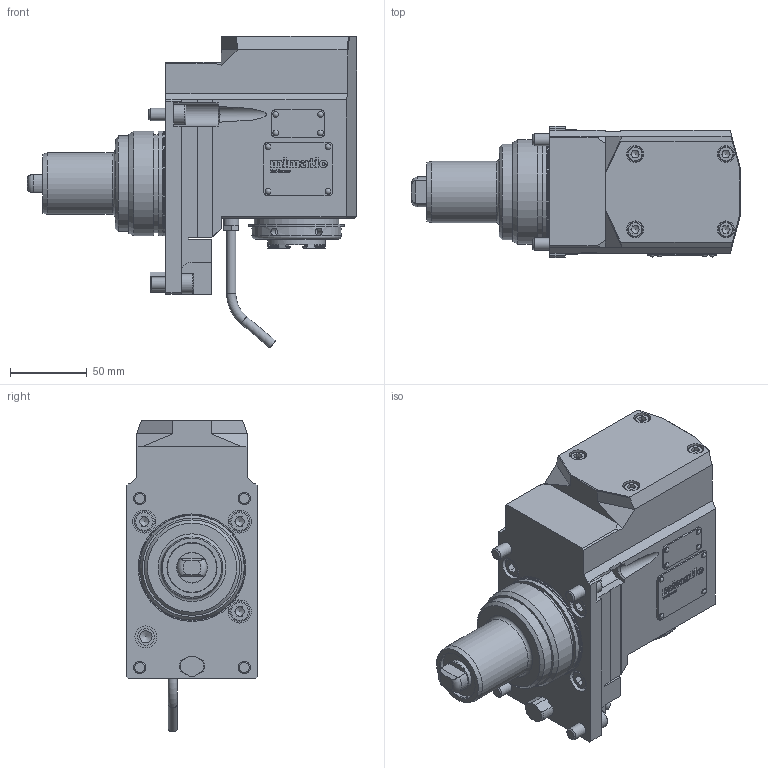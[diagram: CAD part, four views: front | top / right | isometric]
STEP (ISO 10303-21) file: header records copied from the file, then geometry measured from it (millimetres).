
FILE_DESCRIPTION(/* description */ (''),/* implementation_level */ '2;1');
FILE_NAME(/* name */ '191016',/* time_stamp */ '2020-01-17T10:23:55+01:00',/* author */ (''),/* organization */ (''),/* preprocessor_version */ 'ST-DEVELOPER v16.5',/* originating_system */ 'HiCAD 2017 2201.0 Build 268',/* authorisation */ '');
FILE_SCHEMA (('AUTOMOTIVE_DESIGN { 1 0 10303 214 1 1 1 1 }'));
Products named in the file (9): Root; Teil; GEWINDE; DIN 13-M8; DIN 76-M8
Assembly tree (8 placements, depth 3):
  Root
    Teil
      GEWINDE
      GEWINDE
      GEWINDE
      GEWINDE
      DIN 13-M8
      DIN 13-M8
      DIN 76-M8
Bounding box: 214 x 85 x 202.85 mm (x, y, z)
Volume: 1350422.7 mm3; surface area: 123830.7 mm2
Topology: 9 solids, 21 shells, 941 faces, 2357 edges, 1533 vertices
Faces by surface type: plane 611, cylinder 209, cone 40, bspline 40, torus 33, sphere 8
Full cylindrical faces by diameter (mm): 2 x8, 2.2 x8, 4 x3, 5.1 x6, 6 x2, 6.466 x8, 6.8 x4, 8 x8, 8.773 x2, 10 x5, 10.82 x1, 11 x4, 13 x7, 14 x2, 14.18 x1, 14.27 x1, 15 x5, 20 x1, 23.5 x1, 24 x1, 27 x2, 29.4 x1, 32 x1, 37.5 x1, 38 x1, 40 x3, 40.501 x1, 55 x1, 58 x1, 62 x2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
Entity records: 57114 total; most frequent: CARTESIAN_POINT 11058, PRESENTATION_STYLE_ASSIGNMENT 4779, OVER_RIDING_STYLED_ITEM 4771, DIRECTION 4249, COLOUR_RGB 4236, DRAUGHTING_PRE_DEFINED_CURVE_FONT 4228, CURVE_STYLE 4228, ORIENTED_EDGE 4228
